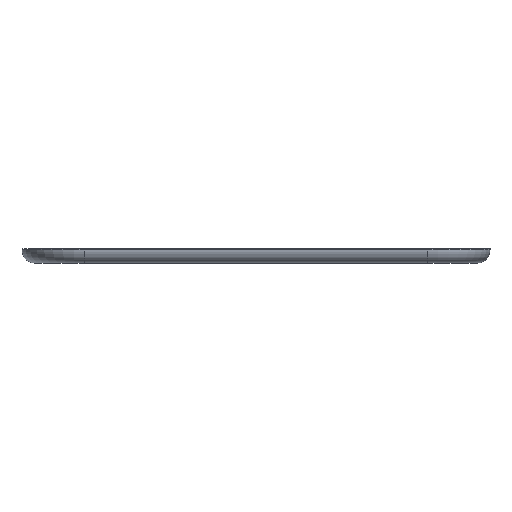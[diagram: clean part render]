
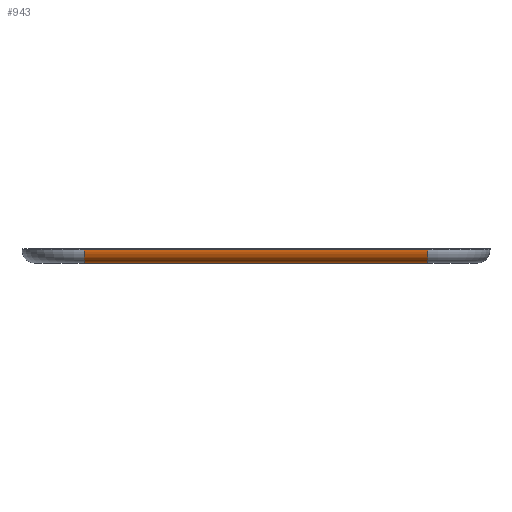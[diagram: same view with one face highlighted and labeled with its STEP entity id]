
A CAD part, left-side view. The second image highlights one B-rep face of the part: STEP entity #943.
In plain terms, the highlighted cylindrical face has radius 3.8 mm (diameter 7.6 mm), a partial arc.
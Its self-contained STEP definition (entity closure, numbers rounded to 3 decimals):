
#22 = VERTEX_POINT('',#23);
#23 = CARTESIAN_POINT('',(-42.8,-49.,-8.6));
#32 = PLANE('',#33);
#33 = AXIS2_PLACEMENT_3D('',#34,#35,#36);
#34 = CARTESIAN_POINT('',(-42.8,-66.8,-12.4));
#35 = DIRECTION('',(1.,0.,0.));
#36 = DIRECTION('',(0.,0.,1.));
#56 = EDGE_CURVE('',#22,#57,#59,.T.);
#57 = VERTEX_POINT('',#58);
#58 = CARTESIAN_POINT('',(-42.8,49.,-8.6));
#59 = SURFACE_CURVE('',#60,(#64,#71),.PCURVE_S1.);
#60 = LINE('',#61,#62);
#61 = CARTESIAN_POINT('',(-42.8,-49.,-8.6));
#62 = VECTOR('',#63,1.);
#63 = DIRECTION('',(0.,1.,0.));
#64 = PCURVE('',#32,#65);
#65 = DEFINITIONAL_REPRESENTATION('',(#66),#70);
#66 = LINE('',#67,#68);
#67 = CARTESIAN_POINT('',(3.8,-17.8));
#68 = VECTOR('',#69,1.);
#69 = DIRECTION('',(0.,-1.));
#70 = ( GEOMETRIC_REPRESENTATION_CONTEXT(2) 
PARAMETRIC_REPRESENTATION_CONTEXT() REPRESENTATION_CONTEXT('2D SPACE',''
  ) );
#71 = PCURVE('',#72,#77);
#72 = CYLINDRICAL_SURFACE('',#73,3.8);
#73 = AXIS2_PLACEMENT_3D('',#74,#75,#76);
#74 = CARTESIAN_POINT('',(-39.,-49.,-8.6));
#75 = DIRECTION('',(0.,1.,0.));
#76 = DIRECTION('',(-1.,0.,0.));
#77 = DEFINITIONAL_REPRESENTATION('',(#78),#82);
#78 = LINE('',#79,#80);
#79 = CARTESIAN_POINT('',(-0.,0.));
#80 = VECTOR('',#81,1.);
#81 = DIRECTION('',(-0.,1.));
#82 = ( GEOMETRIC_REPRESENTATION_CONTEXT(2) 
PARAMETRIC_REPRESENTATION_CONTEXT() REPRESENTATION_CONTEXT('2D SPACE',''
  ) );
#157 = TOROIDAL_SURFACE('',#158,14.,3.8);
#158 = AXIS2_PLACEMENT_3D('',#159,#160,#161);
#159 = CARTESIAN_POINT('',(-25.,-49.,-8.6));
#160 = DIRECTION('',(-0.,-0.,-1.));
#161 = DIRECTION('',(0.,-1.,0.));
#910 = TOROIDAL_SURFACE('',#911,14.,3.8);
#911 = AXIS2_PLACEMENT_3D('',#912,#913,#914);
#912 = CARTESIAN_POINT('',(-25.,49.,-8.6));
#913 = DIRECTION('',(-0.,-0.,-1.));
#914 = DIRECTION('',(-1.,0.,0.));
#943 = ADVANCED_FACE('',(#944),#72,.T.);
#944 = FACE_BOUND('',#945,.F.);
#945 = EDGE_LOOP('',(#946,#968,#996,#1016));
#946 = ORIENTED_EDGE('',*,*,#947,.T.);
#947 = EDGE_CURVE('',#22,#948,#950,.T.);
#948 = VERTEX_POINT('',#949);
#949 = CARTESIAN_POINT('',(-39.,-49.,-12.4));
#950 = SURFACE_CURVE('',#951,(#956,#962),.PCURVE_S1.);
#951 = CIRCLE('',#952,3.8);
#952 = AXIS2_PLACEMENT_3D('',#953,#954,#955);
#953 = CARTESIAN_POINT('',(-39.,-49.,-8.6));
#954 = DIRECTION('',(-0.,-1.,-0.));
#955 = DIRECTION('',(-1.,0.,0.));
#956 = PCURVE('',#72,#957);
#957 = DEFINITIONAL_REPRESENTATION('',(#958),#961);
#958 = B_SPLINE_CURVE_WITH_KNOTS('',1,(#959,#960),.UNSPECIFIED.,.F.,.F.,
  (2,2),(0.,1.571),.PIECEWISE_BEZIER_KNOTS.);
#959 = CARTESIAN_POINT('',(0.,0.));
#960 = CARTESIAN_POINT('',(-1.571,0.));
#961 = ( GEOMETRIC_REPRESENTATION_CONTEXT(2) 
PARAMETRIC_REPRESENTATION_CONTEXT() REPRESENTATION_CONTEXT('2D SPACE',''
  ) );
#962 = PCURVE('',#157,#963);
#963 = DEFINITIONAL_REPRESENTATION('',(#964),#967);
#964 = B_SPLINE_CURVE_WITH_KNOTS('',1,(#965,#966),.UNSPECIFIED.,.F.,.F.,
  (2,2),(0.,1.571),.PIECEWISE_BEZIER_KNOTS.);
#965 = CARTESIAN_POINT('',(1.571,0.));
#966 = CARTESIAN_POINT('',(1.571,1.571));
#967 = ( GEOMETRIC_REPRESENTATION_CONTEXT(2) 
PARAMETRIC_REPRESENTATION_CONTEXT() REPRESENTATION_CONTEXT('2D SPACE',''
  ) );
#968 = ORIENTED_EDGE('',*,*,#969,.T.);
#969 = EDGE_CURVE('',#948,#970,#972,.T.);
#970 = VERTEX_POINT('',#971);
#971 = CARTESIAN_POINT('',(-39.,49.,-12.4));
#972 = SURFACE_CURVE('',#973,(#977,#984),.PCURVE_S1.);
#973 = LINE('',#974,#975);
#974 = CARTESIAN_POINT('',(-39.,-49.,-12.4));
#975 = VECTOR('',#976,1.);
#976 = DIRECTION('',(0.,1.,0.));
#977 = PCURVE('',#72,#978);
#978 = DEFINITIONAL_REPRESENTATION('',(#979),#983);
#979 = LINE('',#980,#981);
#980 = CARTESIAN_POINT('',(-1.571,0.));
#981 = VECTOR('',#982,1.);
#982 = DIRECTION('',(-0.,1.));
#983 = ( GEOMETRIC_REPRESENTATION_CONTEXT(2) 
PARAMETRIC_REPRESENTATION_CONTEXT() REPRESENTATION_CONTEXT('2D SPACE',''
  ) );
#984 = PCURVE('',#985,#990);
#985 = PLANE('',#986);
#986 = AXIS2_PLACEMENT_3D('',#987,#988,#989);
#987 = CARTESIAN_POINT('',(-42.8,-66.8,-12.4));
#988 = DIRECTION('',(0.,0.,1.));
#989 = DIRECTION('',(1.,0.,0.));
#990 = DEFINITIONAL_REPRESENTATION('',(#991),#995);
#991 = LINE('',#992,#993);
#992 = CARTESIAN_POINT('',(3.8,17.8));
#993 = VECTOR('',#994,1.);
#994 = DIRECTION('',(0.,1.));
#995 = ( GEOMETRIC_REPRESENTATION_CONTEXT(2) 
PARAMETRIC_REPRESENTATION_CONTEXT() REPRESENTATION_CONTEXT('2D SPACE',''
  ) );
#996 = ORIENTED_EDGE('',*,*,#997,.F.);
#997 = EDGE_CURVE('',#57,#970,#998,.T.);
#998 = SURFACE_CURVE('',#999,(#1004,#1010),.PCURVE_S1.);
#999 = CIRCLE('',#1000,3.8);
#1000 = AXIS2_PLACEMENT_3D('',#1001,#1002,#1003);
#1001 = CARTESIAN_POINT('',(-39.,49.,-8.6));
#1002 = DIRECTION('',(-0.,-1.,-0.));
#1003 = DIRECTION('',(-1.,0.,0.));
#1004 = PCURVE('',#72,#1005);
#1005 = DEFINITIONAL_REPRESENTATION('',(#1006),#1009);
#1006 = B_SPLINE_CURVE_WITH_KNOTS('',1,(#1007,#1008),.UNSPECIFIED.,.F.,
  .F.,(2,2),(0.,1.571),.PIECEWISE_BEZIER_KNOTS.);
#1007 = CARTESIAN_POINT('',(0.,98.));
#1008 = CARTESIAN_POINT('',(-1.571,98.));
#1009 = ( GEOMETRIC_REPRESENTATION_CONTEXT(2) 
PARAMETRIC_REPRESENTATION_CONTEXT() REPRESENTATION_CONTEXT('2D SPACE',''
  ) );
#1010 = PCURVE('',#910,#1011);
#1011 = DEFINITIONAL_REPRESENTATION('',(#1012),#1015);
#1012 = B_SPLINE_CURVE_WITH_KNOTS('',1,(#1013,#1014),.UNSPECIFIED.,.F.,
  .F.,(2,2),(0.,1.571),.PIECEWISE_BEZIER_KNOTS.);
#1013 = CARTESIAN_POINT('',(0.,0.));
#1014 = CARTESIAN_POINT('',(0.,1.571));
#1015 = ( GEOMETRIC_REPRESENTATION_CONTEXT(2) 
PARAMETRIC_REPRESENTATION_CONTEXT() REPRESENTATION_CONTEXT('2D SPACE',''
  ) );
#1016 = ORIENTED_EDGE('',*,*,#56,.F.);
